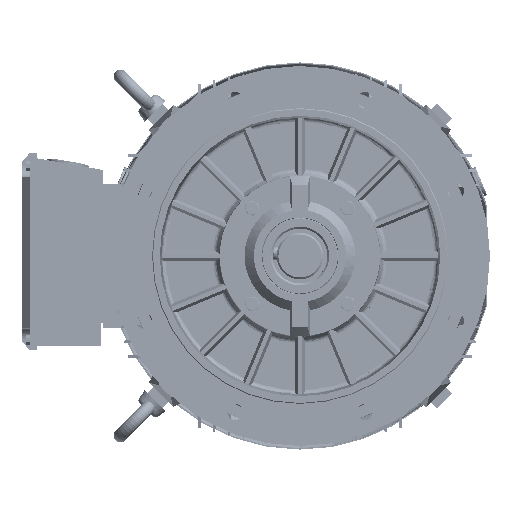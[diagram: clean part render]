
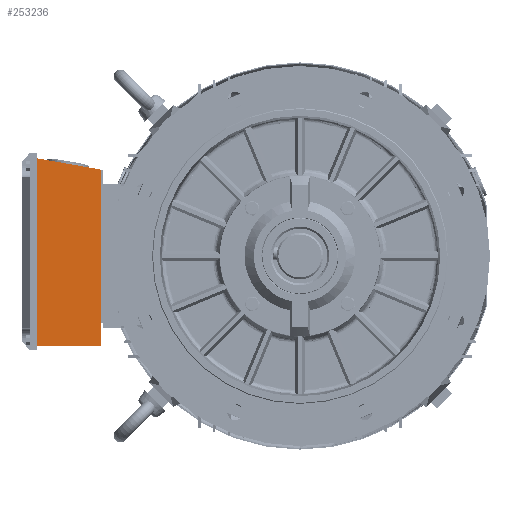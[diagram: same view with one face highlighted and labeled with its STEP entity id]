
A CAD part, left-side view. The second image highlights one B-rep face of the part: STEP entity #253236.
In plain terms, the highlighted planar face has unit normal (-1, 0, 0).
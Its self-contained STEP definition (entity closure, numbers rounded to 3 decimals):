
#22421 = CARTESIAN_POINT ( 'NONE',  ( -30.206, 291.768, -106.82 ) ) ;
#23463 = VECTOR ( 'NONE', #91494, 1000. ) ;
#32303 = CARTESIAN_POINT ( 'NONE',  ( -30.206, 215.768, 102.18 ) ) ;
#33022 = CARTESIAN_POINT ( 'NONE',  ( -30.206, 215.768, -106.82 ) ) ;
#47947 = LINE ( 'NONE', #22421, #23463 ) ;
#48794 = CARTESIAN_POINT ( 'NONE',  ( -30.206, 215.768, 102.18 ) ) ;
#49398 = EDGE_CURVE ( 'NONE', #100740, #66520, #145912, .T. ) ;
#52819 = CARTESIAN_POINT ( 'NONE',  ( -30.206, 215.768, -106.82 ) ) ;
#53359 = LINE ( 'NONE', #32303, #168486 ) ;
#55792 = DIRECTION ( 'NONE',  ( 0., -1., 0. ) ) ;
#66520 = VERTEX_POINT ( 'NONE', #170291 ) ;
#68522 = VECTOR ( 'NONE', #79608, 1000. ) ;
#79608 = DIRECTION ( 'NONE',  ( 0., 0., 1. ) ) ;
#91494 = DIRECTION ( 'NONE',  ( 0., 0., -1. ) ) ;
#100729 = AXIS2_PLACEMENT_3D ( 'NONE', #159175, #180256, #118168 ) ;
#100740 = VERTEX_POINT ( 'NONE', #268265 ) ;
#100998 = VERTEX_POINT ( 'NONE', #48794 ) ;
#101668 = ORIENTED_EDGE ( 'NONE', *, *, #229139, .T. ) ;
#118168 = DIRECTION ( 'NONE',  ( 0., -1., 0. ) ) ;
#119519 = EDGE_CURVE ( 'NONE', #141273, #100740, #47947, .T. ) ;
#130541 = EDGE_CURVE ( 'NONE', #100998, #141273, #53359, .T. ) ;
#136343 = ORIENTED_EDGE ( 'NONE', *, *, #119519, .T. ) ;
#141273 = VERTEX_POINT ( 'NONE', #216771 ) ;
#145912 = LINE ( 'NONE', #52819, #242863 ) ;
#159175 = CARTESIAN_POINT ( 'NONE',  ( -30.206, 291.768, -106.82 ) ) ;
#168486 = VECTOR ( 'NONE', #259209, 1000. ) ;
#170291 = CARTESIAN_POINT ( 'NONE',  ( -30.206, 215.768, -106.82 ) ) ;
#180256 = DIRECTION ( 'NONE',  ( 1., 0., 0. ) ) ;
#184179 = ORIENTED_EDGE ( 'NONE', *, *, #49398, .T. ) ;
#201294 = FACE_OUTER_BOUND ( 'NONE', #203842, .T. ) ;
#203842 = EDGE_LOOP ( 'NONE', ( #184179, #101668, #212231, #136343 ) ) ;
#212231 = ORIENTED_EDGE ( 'NONE', *, *, #130541, .T. ) ;
#216771 = CARTESIAN_POINT ( 'NONE',  ( -30.206, 291.768, 115.581 ) ) ;
#229139 = EDGE_CURVE ( 'NONE', #66520, #100998, #282440, .T. ) ;
#242863 = VECTOR ( 'NONE', #55792, 1000. ) ;
#253236 = ADVANCED_FACE ( 'NONE', ( #201294 ), #273400, .F. ) ;
#259209 = DIRECTION ( 'NONE',  ( 0., 0.985, 0.174 ) ) ;
#268265 = CARTESIAN_POINT ( 'NONE',  ( -30.206, 291.768, -106.82 ) ) ;
#273400 = PLANE ( 'NONE',  #100729 ) ;
#282440 = LINE ( 'NONE', #33022, #68522 ) ;
